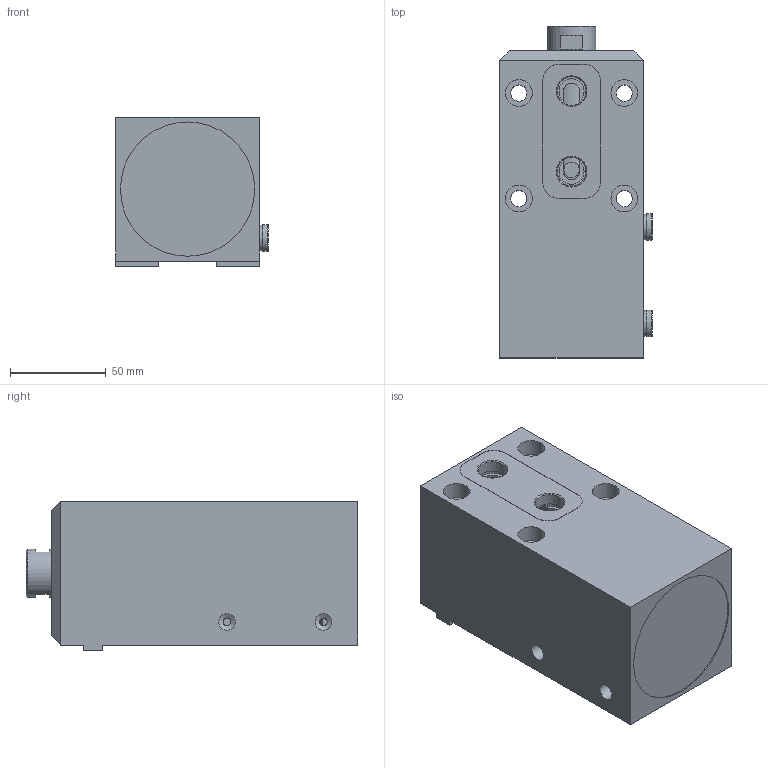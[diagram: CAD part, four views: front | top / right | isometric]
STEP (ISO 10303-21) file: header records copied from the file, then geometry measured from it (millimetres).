
FILE_DESCRIPTION (( 'STEP AP203' ), '1' );
FILE_NAME ('ASUTEC_ASP-1750-40-I.STEP', '2017-08-09T09:02:52', ( '' ), ( '' ), 'SwSTEP 2.0', 'SolidWorks 2015', '' );
FILE_SCHEMA (( 'CONFIG_CONTROL_DESIGN' ));
Length unit declared in the file: metre
Products named in the file (1): ASUTEC_ASP-1750-40-I
Bounding box: 79.6 x 173 x 78 mm (x, y, z)
Volume: 749186.1 mm3; surface area: 118647.7 mm2
Topology: 2 solids, 2 shells, 706 faces, 1856 edges, 1234 vertices
Faces by surface type: plane 413, bspline 206, cylinder 77, cone 7, torus 3
Full cylindrical faces by diameter (mm): 4 x2, 6.8 x1, 8 x2, 8.5 x4, 8.7 x2, 13 x1, 13.5 x2, 14 x7, 15 x2, 16.5 x2, 25 x2, 65 x2, 70 x1
Entity records: 31887 total; most frequent: CARTESIAN_POINT 15905, ORIENTED_EDGE 3586, DIRECTION 2536, EDGE_CURVE 1793, VERTEX_POINT 1215, VECTOR 1208, LINE 1208, EDGE_LOOP 846
